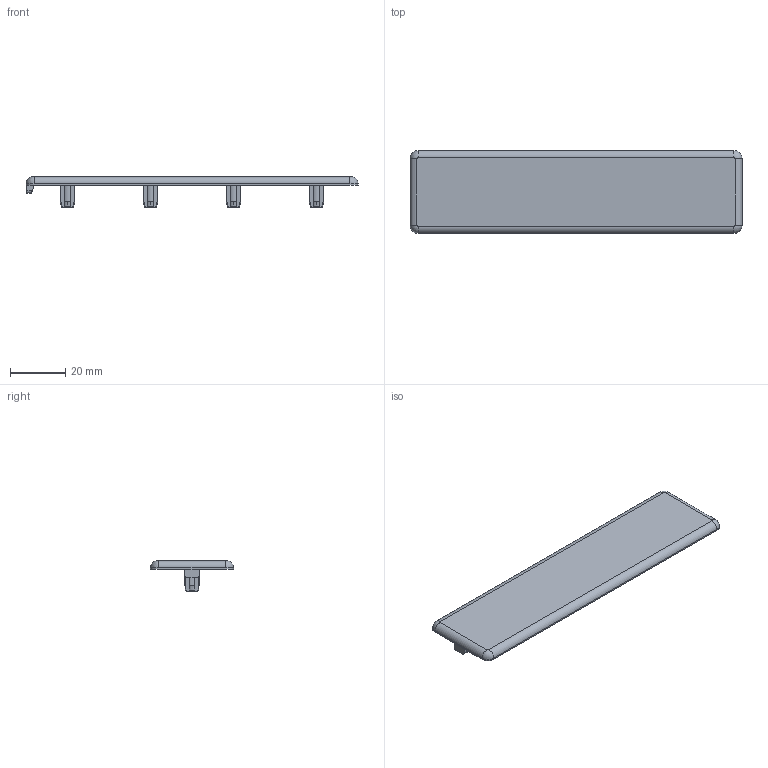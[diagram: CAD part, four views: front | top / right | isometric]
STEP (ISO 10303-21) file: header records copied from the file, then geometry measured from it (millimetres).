
FILE_DESCRIPTION (( 'STEP AP203' ), '1' );
FILE_NAME ('0106AK12030.STEP', '2024-03-07T08:40:37', ( 'Windows-Benutzer' ), ( '' ), 'SwSTEP 2.0', 'SolidWorks 2023', '' );
FILE_SCHEMA (( 'CONFIG_CONTROL_DESIGN' ));
Length unit declared in the file: millimetre
Products named in the file (1): 0106AK12030
Bounding box: 120 x 30 x 11 mm (x, y, z)
Volume: 8267.8 mm3; surface area: 8745.5 mm2
Topology: 1 solids, 1 shells, 142 faces, 395 edges, 260 vertices
Faces by surface type: plane 60, cylinder 38, bspline 20, cone 20, torus 4
Entity records: 5006 total; most frequent: CARTESIAN_POINT 1452, ORIENTED_EDGE 790, DIRECTION 665, EDGE_CURVE 395, VERTEX_POINT 260, AXIS2_PLACEMENT_3D 233, VECTOR 199, LINE 199
